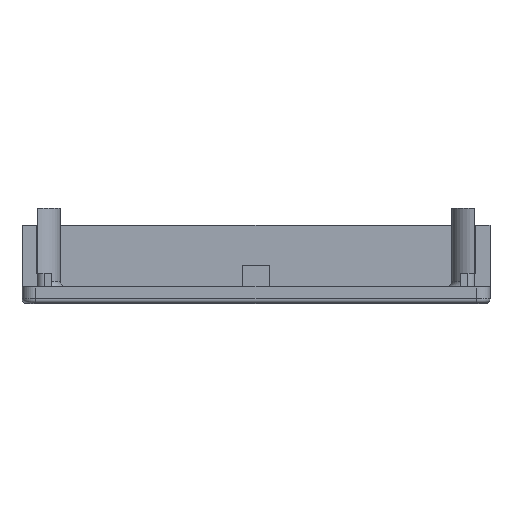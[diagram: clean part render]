
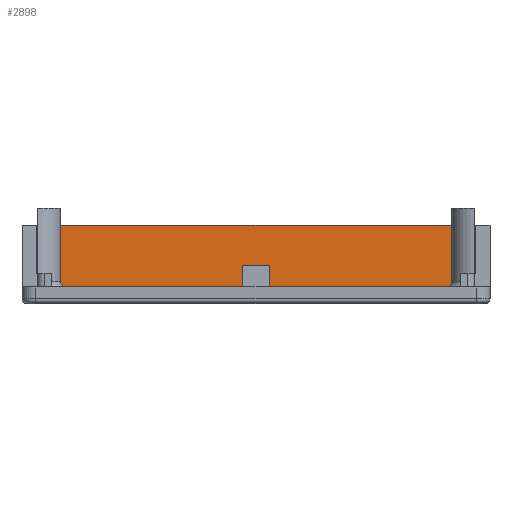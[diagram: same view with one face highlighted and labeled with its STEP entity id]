
A CAD part, left-side view. The second image highlights one B-rep face of the part: STEP entity #2898.
In plain terms, the highlighted planar face has unit normal (-1, 0, 0).
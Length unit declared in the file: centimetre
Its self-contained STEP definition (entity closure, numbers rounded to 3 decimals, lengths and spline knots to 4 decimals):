
#145=PLANE($,#3149);
#272=FACE_OUTER_BOUND($,#446,.T.);
#446=EDGE_LOOP($,(#2431,#2432,#2433,#2434));
#733=LINE($,#4387,#1010);
#762=LINE($,#4451,#1039);
#777=LINE($,#4494,#1054);
#802=LINE($,#4770,#1079);
#1010=VECTOR($,#3503,9.524);
#1039=VECTOR($,#3542,9.524);
#1054=VECTOR($,#3587,1.545);
#1079=VECTOR($,#3676,1.545);
#1288=VERTEX_POINT($,#4384);
#1289=VERTEX_POINT($,#4386);
#1318=VERTEX_POINT($,#4449);
#1319=VERTEX_POINT($,#4450);
#1595=EDGE_CURVE($,#1289,#1288,#733,.T.);
#1626=EDGE_CURVE($,#1318,#1319,#762,.F.);
#1649=EDGE_CURVE($,#1318,#1289,#777,.T.);
#1711=EDGE_CURVE($,#1288,#1319,#802,.T.);
#2431=ORIENTED_EDGE($,*,*,#1626,.F.);
#2432=ORIENTED_EDGE($,*,*,#1649,.T.);
#2433=ORIENTED_EDGE($,*,*,#1595,.T.);
#2434=ORIENTED_EDGE($,*,*,#1711,.T.);
#2898=ADVANCED_FACE($,(#272),#145,.T.);
#3149=AXIS2_PLACEMENT_3D($,#4908,#3833,#3834);
#3503=DIRECTION($,(0.,-1.,0.));
#3542=DIRECTION($,(0.,1.,0.));
#3587=DIRECTION($,(0.,0.,-1.));
#3676=DIRECTION($,(0.,0.,1.));
#3833=DIRECTION('center_axis',(-1.,0.,0.));
#3834=DIRECTION('ref_axis',(0.,0.,-1.));
#4384=CARTESIAN_POINT('',(31.684,-74.735,-0.2142));
#4386=CARTESIAN_POINT('',(31.684,-65.211,-0.2142));
#4387=CARTESIAN_POINT($,(31.684,-69.7412,-0.2142));
#4449=CARTESIAN_POINT('',(31.684,-65.211,1.3308));
#4450=CARTESIAN_POINT('',(31.684,-74.735,1.3308));
#4451=CARTESIAN_POINT($,(31.684,-69.8571,1.3308));
#4494=CARTESIAN_POINT($,(31.684,-65.211,0.1658));
#4770=CARTESIAN_POINT($,(31.684,-74.735,0.1658));
#4908=CARTESIAN_POINT('Origin',(31.684,-69.7412,-1.0142));
